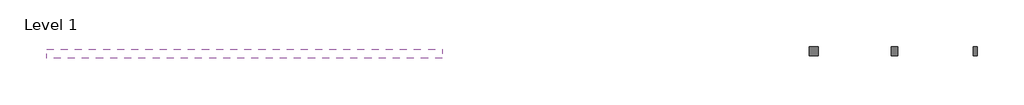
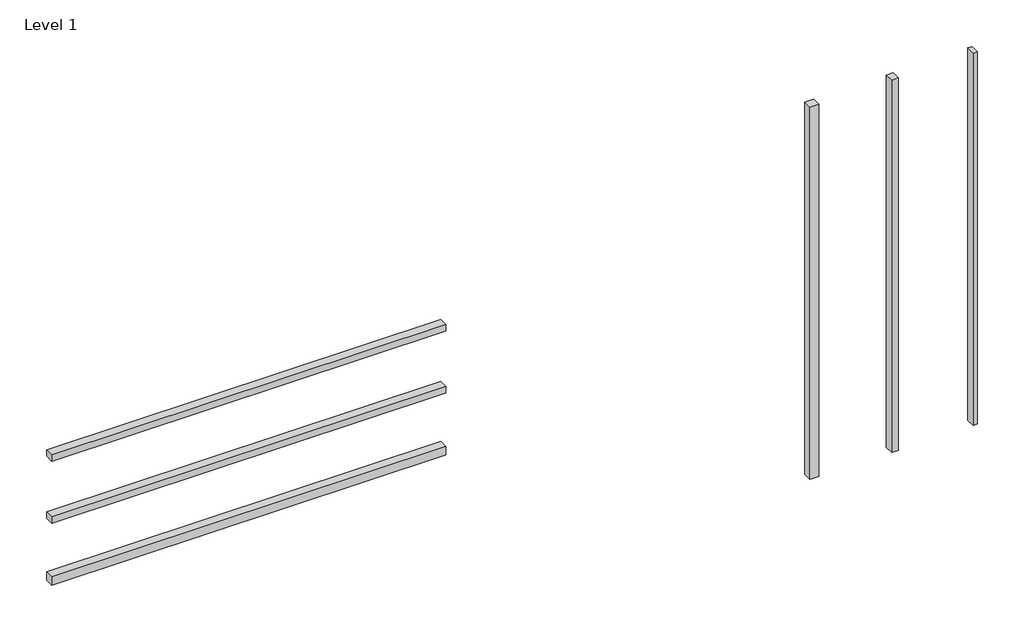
# One storey: 6 proxies.
"""IFC4 building model written with IfcOpenShell, lengths in millimetres."""

from ifc_helpers import new_model, si_unit, origin, place, context, project, spatial, transform, mapped, element, save
from components import proxy_23x48mm_c0c0c68a, proxy_48x48mm_d24d87a2, rectangular_vertikal_48mm_23x48mm_f219b789, rectangular_vertikal_48mm_36x48mm_80132ba2, rectangular_vertikal_48mm_48x48mm_4973d33b

model = new_model("IFC4")

# Units and contexts
model_context = context("Model", 3, world=origin())
ifc_project = project(units=[si_unit("LENGTHUNIT", "METRE", prefix="MILLI")], contexts=[model_context])

# Site, building, storey
site = spatial("IfcSite", under=ifc_project)
building = spatial("IfcBuilding", under=site)
storey = spatial("IfcBuildingStorey", under=building, Name="Level 1", Elevation=0.0)

# Proxies
placement = place(None, origin())
proxy_23x48mm_shape = proxy_23x48mm_c0c0c68a(model_context)
element("IfcBuildingElementProxy", 1, Name="Rectangular - Horisontal - 48mm : 23x48mm", ObjectType="Rectangular - Horisontal - 48mm : 23x48mm", at=placement, inside=storey, context=model_context, shape_type="MappedRepresentation", body=[
    mapped(proxy_23x48mm_shape, transform((-465.6843678, -1245.2130659, 2205.967073), x_axis=(1.0, 0.0, 0.0), y_axis=(0.0, 1.0, 0.0), z_axis=(0.0, 0.0, 1.0))),
])
element("IfcBuildingElementProxy", 2, Name="Rectangular - Horisontal - 48mm : 36x48mm", ObjectType="Rectangular - Horisontal - 48mm : 36x48mm", at=placement, inside=storey, context=model_context, shape_type="MappedRepresentation", body=[
    mapped(proxy_23x48mm_shape, transform((-465.6843678, -1245.2130659, 1855.967073), x_axis=(1.0, 0.0, 0.0), y_axis=(0.0, 1.0, 0.0), z_axis=(0.0, 0.0, 1.0))),
])
proxy_48x48mm_shape = proxy_48x48mm_d24d87a2(model_context)
element("IfcBuildingElementProxy", 3, Name="Rectangular - Horisontal - 48mm : 48x48mm", ObjectType="Rectangular - Horisontal - 48mm : 48x48mm", at=placement, inside=storey, context=model_context, shape_type="MappedRepresentation", body=[
    mapped(proxy_48x48mm_shape, transform((-465.6843678, -1245.2130659, 1505.967073), x_axis=(1.0, 0.0, 0.0), y_axis=(0.0, 1.0, 0.0), z_axis=(0.0, 0.0, 1.0))),
])
rectangular_vertikal_48mm_23x48mm_shape = rectangular_vertikal_48mm_23x48mm_f219b789(model_context)
element("IfcBuildingElementProxy", 4, Name="Rectangular - Vertikal - 48mm : 23x48mm", ObjectType="Rectangular - Vertikal - 48mm : 23x48mm", at=placement, inside=storey, context=model_context, shape_type="MappedRepresentation", body=[
    mapped(rectangular_vertikal_48mm_23x48mm_shape, transform((3438.6005848, -1227.2130659, 1726.8612541), x_axis=(1.0, 0.0, 0.0), y_axis=(0.0, 1.0, 0.0), z_axis=(0.0, 0.0, 1.0))),
])
rectangular_vertikal_48mm_36x48mm_shape = rectangular_vertikal_48mm_36x48mm_80132ba2(model_context)
element("IfcBuildingElementProxy", 5, Name="Rectangular - Vertikal - 48mm : 36x48mm", ObjectType="Rectangular - Vertikal - 48mm : 36x48mm", at=placement, inside=storey, context=model_context, shape_type="MappedRepresentation", body=[
    mapped(rectangular_vertikal_48mm_36x48mm_shape, transform((3003.6005848, -1227.2130659, 1726.8612541), x_axis=(1.0, 0.0, 0.0), y_axis=(0.0, 1.0, 0.0), z_axis=(0.0, 0.0, 1.0))),
])
rectangular_vertikal_48mm_48x48mm_shape = rectangular_vertikal_48mm_48x48mm_4973d33b(model_context)
element("IfcBuildingElementProxy", 6, Name="Rectangular - Vertikal - 48mm : 48x48mm", ObjectType="Rectangular - Vertikal - 48mm : 48x48mm", at=placement, inside=storey, context=model_context, shape_type="MappedRepresentation", body=[
    mapped(rectangular_vertikal_48mm_48x48mm_shape, transform((2568.6005848, -1227.2130659, 1726.8612541), x_axis=(1.0, 0.0, 0.0), y_axis=(0.0, 1.0, 0.0), z_axis=(0.0, 0.0, 1.0))),
])

save(model, "model.ifc")
